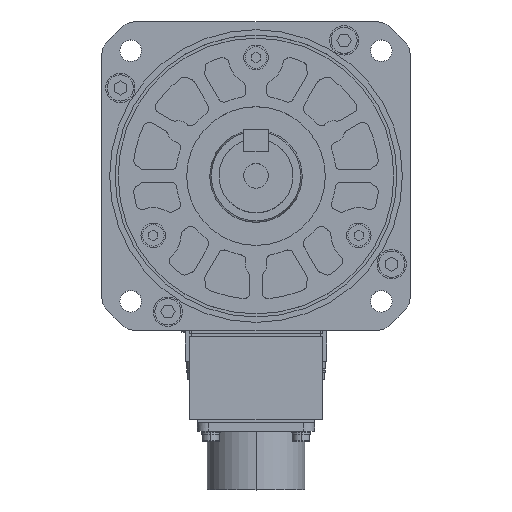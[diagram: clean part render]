
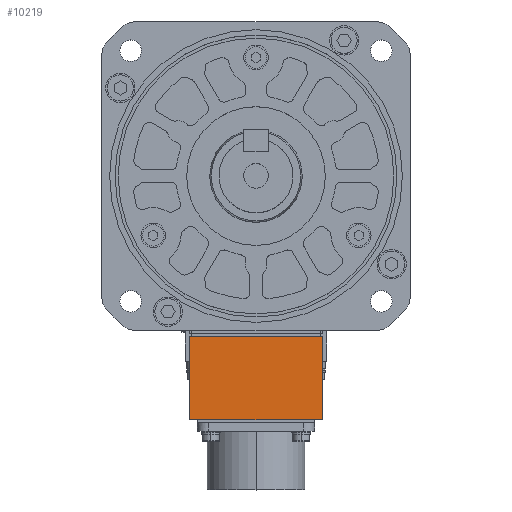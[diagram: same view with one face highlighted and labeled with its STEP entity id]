
A CAD part, top view. The second image highlights one B-rep face of the part: STEP entity #10219.
In plain terms, the highlighted planar face has unit normal (0, 0, 1).
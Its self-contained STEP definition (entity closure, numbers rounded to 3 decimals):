
#722 = CARTESIAN_POINT ( 'NONE',  ( 21.5, -52., -46.7 ) ) ;
#2899 = VERTEX_POINT ( 'NONE', #14355 ) ;
#2929 = VERTEX_POINT ( 'NONE', #14428 ) ;
#2947 = EDGE_CURVE ( 'NONE', #2899, #2929, #14468, .T. ) ;
#10155 = VERTEX_POINT ( 'NONE', #26204 ) ;
#10198 = ORIENTED_EDGE ( 'NONE', *, *, #10199, .T. ) ;
#10199 = EDGE_CURVE ( 'NONE', #10155, #2929, #26280, .T. ) ;
#10200 = ORIENTED_EDGE ( 'NONE', *, *, #2947, .F. ) ;
#10201 = ORIENTED_EDGE ( 'NONE', *, *, #11662, .F. ) ;
#10202 = ORIENTED_EDGE ( 'NONE', *, *, #10211, .T. ) ;
#10211 = EDGE_CURVE ( 'NONE', #13287, #10155, #26266, .T. ) ;
#10219 = ADVANCED_FACE ( 'NONE', ( #26326 ), #26262, .F. ) ;
#10220 = EDGE_LOOP ( 'NONE', ( #10198, #10200, #10201, #10202 ) ) ;
#11662 = EDGE_CURVE ( 'NONE', #13287, #2899, #28568, .T. ) ;
#13287 = VERTEX_POINT ( 'NONE', #722 ) ;
#14355 = CARTESIAN_POINT ( 'NONE',  ( 21.5, -79., -46.7 ) ) ;
#14428 = CARTESIAN_POINT ( 'NONE',  ( -21.5, -79., -46.7 ) ) ;
#14465 = DIRECTION ( 'NONE',  ( -1., 0., 0. ) ) ;
#14466 = VECTOR ( 'NONE', #14465, 1000. ) ;
#14467 = CARTESIAN_POINT ( 'NONE',  ( 21.5, -79., -46.7 ) ) ;
#14468 = LINE ( 'NONE', #14467, #14466 ) ;
#26204 = CARTESIAN_POINT ( 'NONE',  ( -21.5, -52., -46.7 ) ) ;
#26262 = PLANE ( 'NONE',  #26325 ) ;
#26263 = DIRECTION ( 'NONE',  ( -1., 0., 0. ) ) ;
#26264 = VECTOR ( 'NONE', #26263, 1000. ) ;
#26265 = CARTESIAN_POINT ( 'NONE',  ( 21.5, -52., -46.7 ) ) ;
#26266 = LINE ( 'NONE', #26265, #26264 ) ;
#26277 = DIRECTION ( 'NONE',  ( 0., -1., 0. ) ) ;
#26278 = VECTOR ( 'NONE', #26277, 1000. ) ;
#26279 = CARTESIAN_POINT ( 'NONE',  ( -21.5, -52., -46.7 ) ) ;
#26280 = LINE ( 'NONE', #26279, #26278 ) ;
#26322 = DIRECTION ( 'NONE',  ( -1., 0., 0. ) ) ;
#26323 = DIRECTION ( 'NONE',  ( 0., 0., -1. ) ) ;
#26324 = CARTESIAN_POINT ( 'NONE',  ( 21.5, -52., -46.7 ) ) ;
#26325 = AXIS2_PLACEMENT_3D ( 'NONE', #26324, #26323, #26322 ) ;
#26326 = FACE_OUTER_BOUND ( 'NONE', #10220, .T. ) ;
#28565 = DIRECTION ( 'NONE',  ( 0., -1., 0. ) ) ;
#28566 = VECTOR ( 'NONE', #28565, 1000. ) ;
#28567 = CARTESIAN_POINT ( 'NONE',  ( 21.5, -52., -46.7 ) ) ;
#28568 = LINE ( 'NONE', #28567, #28566 ) ;
